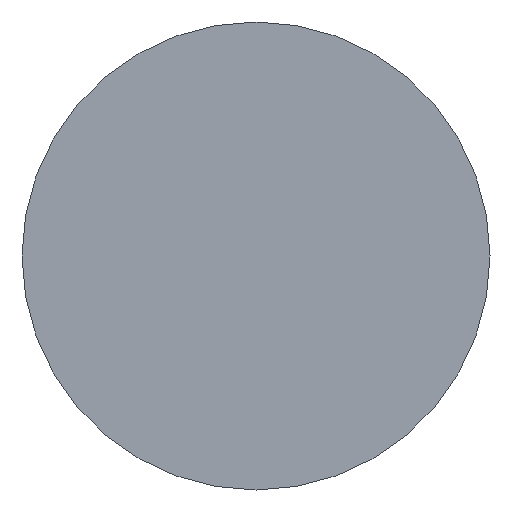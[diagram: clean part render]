
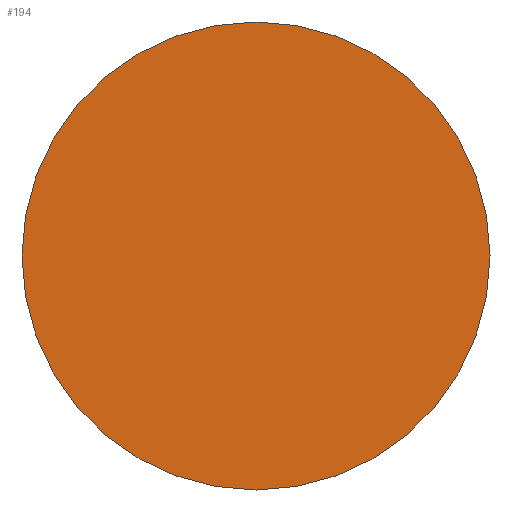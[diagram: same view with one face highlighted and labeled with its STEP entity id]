
A CAD part, left-side view. The second image highlights one B-rep face of the part: STEP entity #194.
In plain terms, the highlighted planar face has unit normal (-1, 0, 0).
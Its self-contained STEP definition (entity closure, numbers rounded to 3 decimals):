
#6 = CIRCLE ( 'NONE', #25, 6. ) ;
#13 = AXIS2_PLACEMENT_3D ( 'NONE', #150, #261, #82 ) ;
#25 = AXIS2_PLACEMENT_3D ( 'NONE', #191, #193, #201 ) ;
#47 = EDGE_LOOP ( 'NONE', ( #124, #187 ) ) ;
#50 = CARTESIAN_POINT ( 'NONE',  ( 0., -6., 0. ) ) ;
#51 = AXIS2_PLACEMENT_3D ( 'NONE', #236, #168, #73 ) ;
#72 = CARTESIAN_POINT ( 'NONE',  ( 0., 6., 0. ) ) ;
#73 = DIRECTION ( 'NONE',  ( 0., -1., 0. ) ) ;
#82 = DIRECTION ( 'NONE',  ( 0., 1., 0. ) ) ;
#87 = CIRCLE ( 'NONE', #13, 6. ) ;
#94 = EDGE_CURVE ( 'NONE', #245, #243, #87, .T. ) ;
#124 = ORIENTED_EDGE ( 'NONE', *, *, #148, .F. ) ;
#148 = EDGE_CURVE ( 'NONE', #243, #245, #6, .T. ) ;
#150 = CARTESIAN_POINT ( 'NONE',  ( 0., 0., 0. ) ) ;
#159 = PLANE ( 'NONE',  #51 ) ;
#168 = DIRECTION ( 'NONE',  ( -1., 0., 0. ) ) ;
#187 = ORIENTED_EDGE ( 'NONE', *, *, #94, .F. ) ;
#191 = CARTESIAN_POINT ( 'NONE',  ( 0., 0., 0. ) ) ;
#193 = DIRECTION ( 'NONE',  ( 1., 0., 0. ) ) ;
#194 = ADVANCED_FACE ( 'NONE', ( #198 ), #159, .T. ) ;
#198 = FACE_OUTER_BOUND ( 'NONE', #47, .T. ) ;
#201 = DIRECTION ( 'NONE',  ( 0., 1., 0. ) ) ;
#236 = CARTESIAN_POINT ( 'NONE',  ( 0., 0., 0. ) ) ;
#243 = VERTEX_POINT ( 'NONE', #72 ) ;
#245 = VERTEX_POINT ( 'NONE', #50 ) ;
#261 = DIRECTION ( 'NONE',  ( 1., 0., 0. ) ) ;
